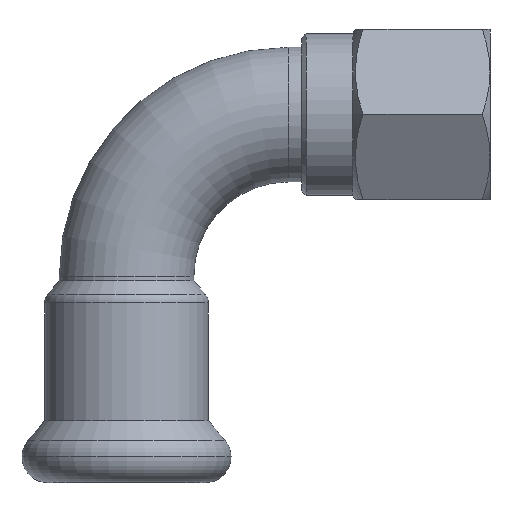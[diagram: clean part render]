
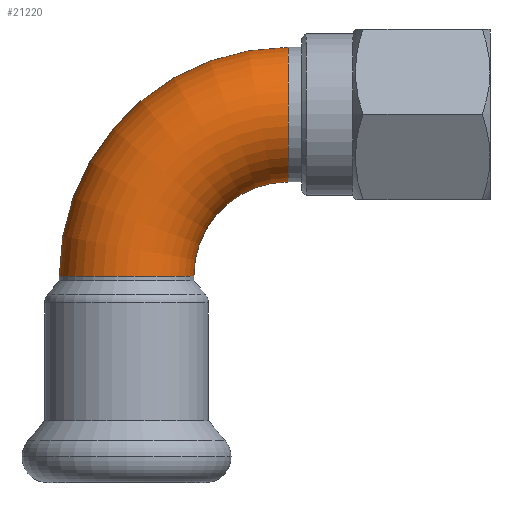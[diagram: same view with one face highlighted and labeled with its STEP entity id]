
A CAD part, top view. The second image highlights one B-rep face of the part: STEP entity #21220.
In plain terms, the highlighted toroidal (fillet/blend) face has major radius 18 mm and minor radius 7.5 mm.
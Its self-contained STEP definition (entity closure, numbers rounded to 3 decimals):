
#15210=CARTESIAN_POINT('',(-83.071,28.74,
0.));
#15220=VERTEX_POINT('',#15210);
#15300=CARTESIAN_POINT('',(-83.071,13.74,
0.));
#15310=VERTEX_POINT('',#15300);
#16510=CARTESIAN_POINT('',(-93.571,3.24,
0.));
#16520=VERTEX_POINT('',#16510);
#16570=CARTESIAN_POINT('',(-101.071,3.24,0.));
#16580=DIRECTION('',(0.,-1.,0.));
#16590=DIRECTION('',(1.,0.,0.));
#16600=AXIS2_PLACEMENT_3D('',#16570,#16580,#16590);
#16610=CIRCLE('',#16600,7.5);
#16620=CARTESIAN_POINT('',(-108.571,3.24,
0.));
#16630=VERTEX_POINT('',#16620);
#16840=CARTESIAN_POINT('',(-83.071,3.24,
0.));
#16850=DIRECTION('',(0.,0.,1.));
#16860=DIRECTION('',(0.,1.,0.));
#16870=AXIS2_PLACEMENT_3D('',#16840,#16850,#16860);
#16880=TOROIDAL_SURFACE('',#16870,18.,7.5);
#16890=CARTESIAN_POINT('',(-83.071,3.24,
0.));
#16900=DIRECTION('',(0.,0.,1.));
#16910=DIRECTION('',(0.,1.,0.));
#16920=AXIS2_PLACEMENT_3D('',#16890,#16900,#16910);
#16930=CIRCLE('',#16920,10.5);
#16940=EDGE_CURVE('',#15310,#16520,#16930,.T.);
#16970=CARTESIAN_POINT('',(-83.071,3.24,
0.));
#16980=DIRECTION('',(0.,0.,1.));
#16990=DIRECTION('',(0.,1.,0.));
#17000=AXIS2_PLACEMENT_3D('',#16970,#16980,#16990);
#17010=CIRCLE('',#17000,25.5);
#17020=EDGE_CURVE('',#15220,#16630,#17010,.T.);
#21090=EDGE_CURVE('',#16520,#16630,#16610,.T.);
#21100=ORIENTED_EDGE('',*,*,#21090,.F.);
#21110=ORIENTED_EDGE('',*,*,#17020,.T.);
#21120=CARTESIAN_POINT('',(-83.071,21.24,
0.));
#21130=DIRECTION('',(-1.,0.,0.));
#21140=DIRECTION('',(0.,-1.,0.));
#21150=AXIS2_PLACEMENT_3D('',#21120,#21130,#21140);
#21160=CIRCLE('',#21150,7.5);
#21170=EDGE_CURVE('',#15310,#15220,#21160,.T.);
#21180=ORIENTED_EDGE('',*,*,#21170,.T.);
#21190=ORIENTED_EDGE('',*,*,#16940,.F.);
#21200=EDGE_LOOP('',(#21190,#21180,#21110,#21100));
#21210=FACE_OUTER_BOUND('',#21200,.T.);
#21220=ADVANCED_FACE('',(#21210),#16880,.T.);
